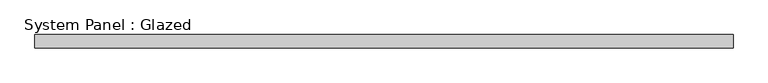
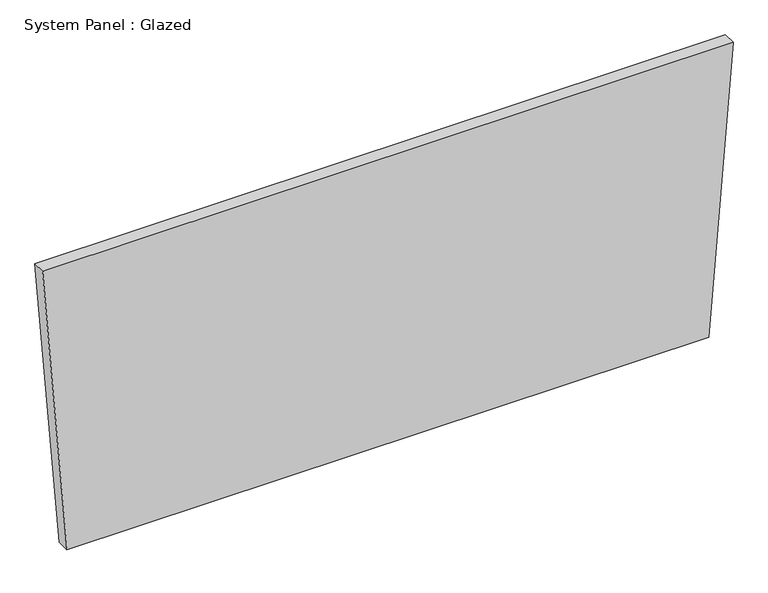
"""IFC4 building model written with IfcOpenShell, lengths in millimetres: plate geometry, System Panel : Glazed."""

from ifc_helpers import new_model, si_unit, frame, origin, place, context, project, spatial, polyline, outline, extrude, source, transform, mapped, element, save


def system_panel_glazed_1a4c8fcb(model_context):
    return source(origin(), model_context, "Body", "SweptSolid", [
        extrude(outline(polyline([(0.0, -616.4008324), (0.0, 616.4008324), (582.247707, 663.1116973), (582.247707, -663.1116973), (0.0, -616.4008324)])), frame((0.0, -44.45, 0.0), z_axis=(0.0, 1.0, 0.0), x_axis=(0.0, 0.0, 1.0)), (0.0, 0.0, 1.0), 25.4),
    ])


if __name__ == "__main__":
    model = new_model("IFC4")
    model_context = context("Model", 3, world=origin())
    ifc_project = project(units=[si_unit("LENGTHUNIT", "METRE", prefix="MILLI")], contexts=[model_context])
    site = spatial("IfcSite", under=ifc_project)
    building = spatial("IfcBuilding", under=site)
    placement = place(None, origin())
    system_panel_glazed_shape = system_panel_glazed_1a4c8fcb(model_context)
    element("IfcPlate", 1, ObjectType="System Panel : Glazed", at=placement, inside=building, context=model_context, shape_type="MappedRepresentation", body=[
        mapped(system_panel_glazed_shape, transform((0.0, 0.0, 0.0), x_axis=(1.0, 0.0, 0.0), y_axis=(0.0, 1.0, 0.0), z_axis=(0.0, 0.0, 1.0))),
    ])
    save(model, "model.ifc")
